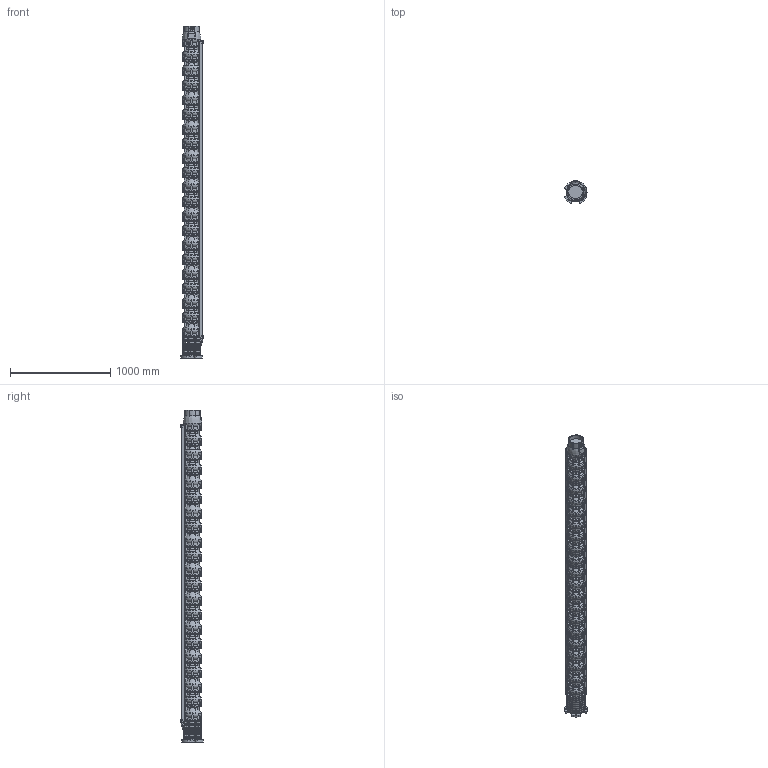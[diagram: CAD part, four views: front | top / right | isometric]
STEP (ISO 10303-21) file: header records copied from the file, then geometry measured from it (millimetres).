
FILE_DESCRIPTION(/* description */ ('Unknown'),/* implementation_level */ '2;1');
FILE_NAME(/* name */ 'VSI134-20_WR_M10-50_SME',/* time_stamp */ '2023-09-14T14:50:56+02:00',/* author */ ('Unknown'),/* organization */ ('Unknown'),/* preprocessor_version */ 'ST-DEVELOPER v18.102',/* originating_system */ 'Solid Edge',/* authorisation */ 'Unknown');
FILE_SCHEMA (('AUTOMOTIVE_DESIGN {1 0 10303 214 3 1 1}'));
Products named in the file (12): VSI134-20_WR_M10-50_SME; VSI134_testata; VSI134_diffusore; VSI134_supporto_8×8; VSI134_adattatore_8×10; VSI134_filtro_A; VSI134_filtro_B; VSI134_terminale_top_copricavo_medio; VSI134_terminale_bottom_copricavo_medio; MID 134-20; M5X8_UNI7687; VSI134_giunto_8×10
Assembly tree (44 placements, depth 2):
  VSI134-20_WR_M10-50_SME
    VSI134_testata
    VSI134_diffusore  x20
    VSI134_supporto_8×8
    VSI134_adattatore_8×10
    VSI134_filtro_A
    VSI134_filtro_B
    VSI134_terminale_top_copricavo_medio  x2
    VSI134_terminale_bottom_copricavo_medio  x2
    MID 134-20  x2
    M5X8_UNI7687  x12
    VSI134_giunto_8×10
Bounding box: 221.78 x 221.78 x 3318 mm (x, y, z)
Volume: 62782996.9 mm3; surface area: 5562964.5 mm2
Topology: 83 solids, 85 shells, 5907 faces, 16617 edges, 11102 vertices
Faces by surface type: plane 4119, torus 916, cylinder 750, cone 77, bspline 31, sphere 14
Full cylindrical faces by diameter (mm): 2.4 x2, 3 x2, 4.2 x16, 5 x12, 5.5 x8, 14 x4, 16 x4, 17.5 x4, 26 x1, 30 x4, 44 x1, 65 x1, 69 x1, 74 x1, 84 x1, 98 x1, 127 x2, 135.472 x1, 157 x1, 182 x21
Entity records: 85435 total; most frequent: CARTESIAN_POINT 18309, ORIENTED_EDGE 13946, DIRECTION 13482, EDGE_CURVE 6973, VERTEX_POINT 4707, AXIS2_PLACEMENT_3D 4619, LINE 4244, VECTOR 4244
